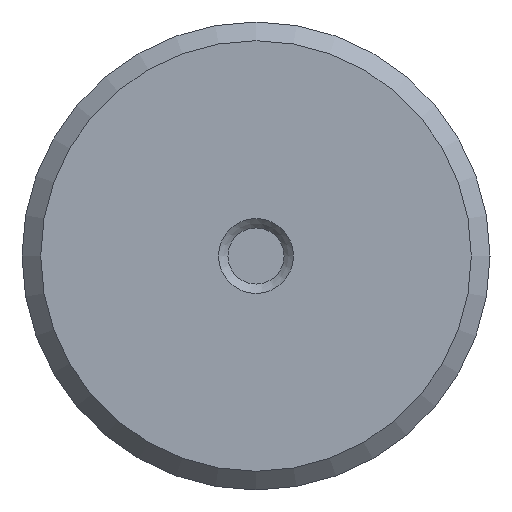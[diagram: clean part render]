
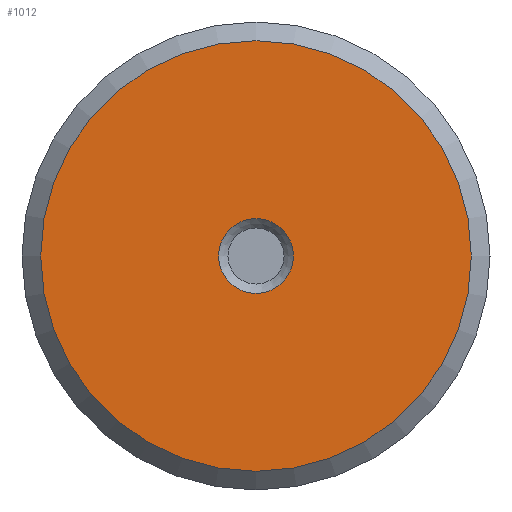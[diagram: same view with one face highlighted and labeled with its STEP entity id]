
A CAD part, left-side view. The second image highlights one B-rep face of the part: STEP entity #1012.
In plain terms, the highlighted planar face has unit normal (-1, 0, 0).
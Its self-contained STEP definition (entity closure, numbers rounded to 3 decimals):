
#39=FACE_BOUND('',#311,.T.);
#204=PLANE('',#1140);
#253=FACE_OUTER_BOUND('',#310,.T.);
#310=EDGE_LOOP('',(#944,#945));
#311=EDGE_LOOP('',(#946,#947));
#362=CIRCLE('',#1138,2.);
#363=CIRCLE('',#1139,2.);
#364=CIRCLE('',#1141,11.5);
#365=CIRCLE('',#1142,11.5);
#500=VERTEX_POINT('',#2083);
#501=VERTEX_POINT('',#2085);
#502=VERTEX_POINT('',#2089);
#503=VERTEX_POINT('',#2090);
#649=EDGE_CURVE('',#501,#500,#362,.T.);
#650=EDGE_CURVE('',#500,#501,#363,.T.);
#651=EDGE_CURVE('',#502,#503,#364,.T.);
#652=EDGE_CURVE('',#503,#502,#365,.T.);
#944=ORIENTED_EDGE('',*,*,#651,.F.);
#945=ORIENTED_EDGE('',*,*,#652,.F.);
#946=ORIENTED_EDGE('',*,*,#649,.T.);
#947=ORIENTED_EDGE('',*,*,#650,.T.);
#1012=ADVANCED_FACE('',(#253,#39),#204,.T.);
#1138=AXIS2_PLACEMENT_3D('',#2086,#1398,#1399);
#1139=AXIS2_PLACEMENT_3D('',#2087,#1400,#1401);
#1140=AXIS2_PLACEMENT_3D('',#2088,#1402,#1403);
#1141=AXIS2_PLACEMENT_3D('',#2091,#1404,#1405);
#1142=AXIS2_PLACEMENT_3D('',#2092,#1406,#1407);
#1398=DIRECTION('center_axis',(1.,0.,0.));
#1399=DIRECTION('ref_axis',(0.,0.,-1.));
#1400=DIRECTION('center_axis',(1.,0.,0.));
#1401=DIRECTION('ref_axis',(0.,0.,-1.));
#1402=DIRECTION('center_axis',(-1.,0.,0.));
#1403=DIRECTION('ref_axis',(0.,0.,1.));
#1404=DIRECTION('center_axis',(1.,0.,0.));
#1405=DIRECTION('ref_axis',(0.,0.,-1.));
#1406=DIRECTION('center_axis',(1.,0.,0.));
#1407=DIRECTION('ref_axis',(0.,0.,-1.));
#2083=CARTESIAN_POINT('',(-77.5,-2.,0.));
#2085=CARTESIAN_POINT('',(-77.5,2.,0.));
#2086=CARTESIAN_POINT('Origin',(-77.5,0.,0.));
#2087=CARTESIAN_POINT('Origin',(-77.5,0.,0.));
#2088=CARTESIAN_POINT('Origin',(-77.5,11.5,0.));
#2089=CARTESIAN_POINT('',(-77.5,11.5,0.));
#2090=CARTESIAN_POINT('',(-77.5,-11.5,0.));
#2091=CARTESIAN_POINT('Origin',(-77.5,0.,0.));
#2092=CARTESIAN_POINT('Origin',(-77.5,0.,0.));
